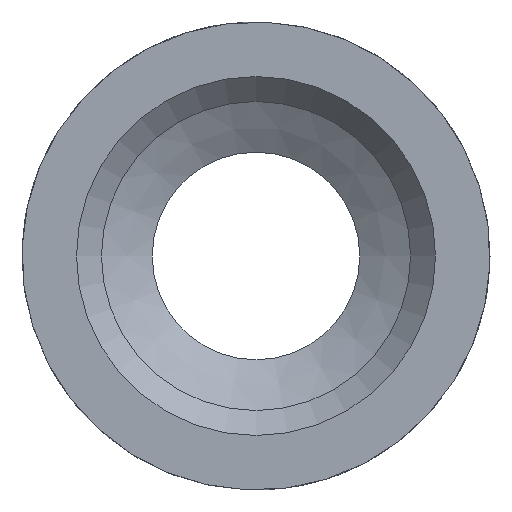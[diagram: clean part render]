
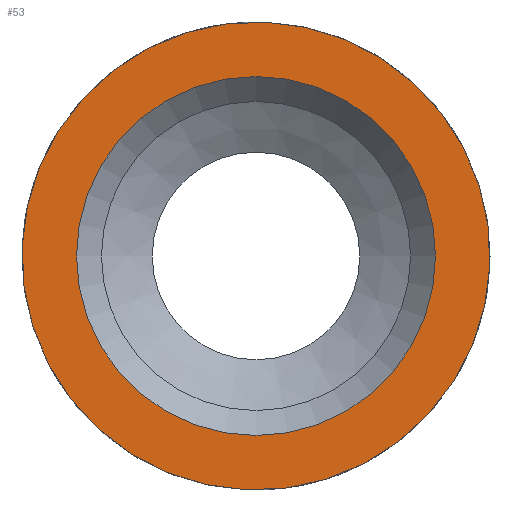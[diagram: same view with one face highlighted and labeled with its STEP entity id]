
A CAD part, front view. The second image highlights one B-rep face of the part: STEP entity #53.
In plain terms, the highlighted planar face has unit normal (0, -1, 0).
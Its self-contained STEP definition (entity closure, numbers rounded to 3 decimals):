
#53=ADVANCED_FACE('',(#193,#195),#197,.T.);
#193=FACE_BOUND('',#194,.T.);
#194=EDGE_LOOP('',(#812));
#195=FACE_BOUND('',#196,.T.);
#196=EDGE_LOOP('',(#813));
#197=PLANE('',#198);
#198=AXIS2_PLACEMENT_3D('',#199,#200,#201);
#199=CARTESIAN_POINT('',(0.,-19.2,0.));
#200=DIRECTION('',(0.,-1.,0.));
#201=DIRECTION('',(1.,0.,0.));
#812=ORIENTED_EDGE('',*,*,#1001,.T.);
#813=ORIENTED_EDGE('',*,*,#999,.T.);
#999=EDGE_CURVE('',#1107,#1107,#1108,.F.);
#1001=EDGE_CURVE('',#1111,#1111,#1112,.T.);
#1107=VERTEX_POINT('',#1314);
#1108=CIRCLE('',#1315,10.816);
#1111=VERTEX_POINT('',#1324);
#1112=CIRCLE('',#1325,14.1);
#1314=CARTESIAN_POINT('',(10.816,-19.2,0.));
#1315=AXIS2_PLACEMENT_3D('',#1316,#1317,#1318);
#1316=CARTESIAN_POINT('',(0.,-19.2,0.));
#1317=DIRECTION('',(0.,-1.,0.));
#1318=DIRECTION('',(1.,0.,0.));
#1324=CARTESIAN_POINT('',(12.5,-19.2,6.524));
#1325=AXIS2_PLACEMENT_3D('',#1326,#1327,#1328);
#1326=CARTESIAN_POINT('',(0.,-19.2,0.));
#1327=DIRECTION('',(0.,-1.,0.));
#1328=DIRECTION('',(1.,0.,0.));
